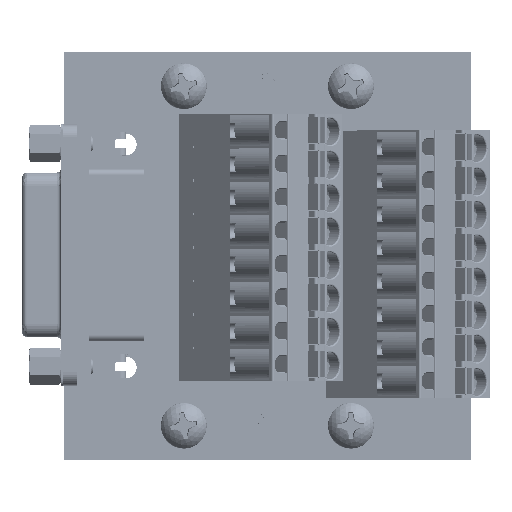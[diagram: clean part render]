
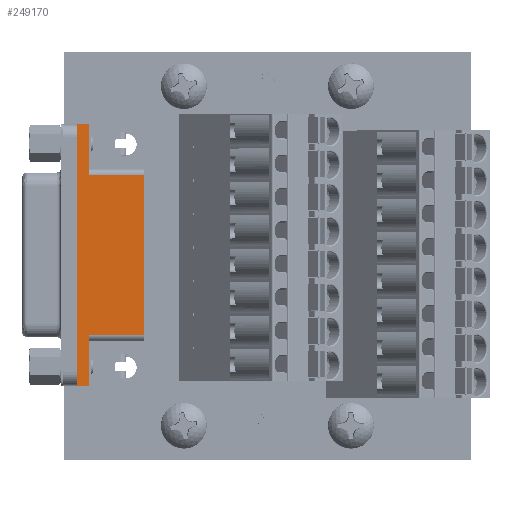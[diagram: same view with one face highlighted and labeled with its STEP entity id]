
A CAD part, top view. The second image highlights one B-rep face of the part: STEP entity #249170.
In plain terms, the highlighted planar face has unit normal (0, 0, 1) as drawn and (0, 1, 0) by its records, which use the part's own axes.
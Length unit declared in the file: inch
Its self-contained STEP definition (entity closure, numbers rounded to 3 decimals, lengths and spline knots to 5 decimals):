
#1012 = VERTEX_POINT ( 'NONE', #108923 ) ;
#3471 = EDGE_CURVE ( 'NONE', #34683, #301101, #174066, .T. ) ;
#11892 = DIRECTION ( 'NONE',  ( 0., 0., -1. ) ) ;
#14002 = EDGE_CURVE ( 'NONE', #338427, #1012, #72622, .T. ) ;
#33348 = PLANE ( 'NONE',  #36133 ) ;
#34683 = VERTEX_POINT ( 'NONE', #293613 ) ;
#36133 = AXIS2_PLACEMENT_3D ( 'NONE', #248626, #369689, #122282 ) ;
#36748 = VECTOR ( 'NONE', #165352, 39.37008 ) ;
#38092 = ORIENTED_EDGE ( 'NONE', *, *, #114585, .T. ) ;
#44380 = CARTESIAN_POINT ( 'NONE',  ( 0.77047, 0.16142, 0. ) ) ;
#52725 = DIRECTION ( 'NONE',  ( 0., 0., -1. ) ) ;
#63792 = LINE ( 'NONE', #283768, #177799 ) ;
#67737 = VERTEX_POINT ( 'NONE', #371450 ) ;
#72622 = LINE ( 'NONE', #383836, #262961 ) ;
#74480 = DIRECTION ( 'NONE',  ( 0., 0., 1. ) ) ;
#84071 = CARTESIAN_POINT ( 'NONE',  ( 0.77047, 0.16142, 0.15157 ) ) ;
#88889 = LINE ( 'NONE', #44380, #36748 ) ;
#90553 = ORIENTED_EDGE ( 'NONE', *, *, #14002, .F. ) ;
#91096 = ORIENTED_EDGE ( 'NONE', *, *, #107046, .F. ) ;
#102215 = CARTESIAN_POINT ( 'NONE',  ( 0.4689, 0.16142, 0.07874 ) ) ;
#105981 = ORIENTED_EDGE ( 'NONE', *, *, #262574, .T. ) ;
#107046 = EDGE_CURVE ( 'NONE', #34683, #67737, #317939, .T. ) ;
#108923 = CARTESIAN_POINT ( 'NONE',  ( -0.77047, 0.16142, 0.07874 ) ) ;
#114585 = EDGE_CURVE ( 'NONE', #196304, #1012, #234347, .T. ) ;
#122282 = DIRECTION ( 'NONE',  ( 0., 0., 1. ) ) ;
#126552 = CARTESIAN_POINT ( 'NONE',  ( 0.4689, 0.16142, 0.15157 ) ) ;
#134973 = EDGE_CURVE ( 'NONE', #267654, #67737, #304955, .T. ) ;
#139583 = EDGE_CURVE ( 'NONE', #301101, #238611, #63792, .T. ) ;
#149500 = EDGE_LOOP ( 'NONE', ( #257265, #304658, #38092, #90553, #105981, #234363, #91096, #365338 ) ) ;
#157747 = CARTESIAN_POINT ( 'NONE',  ( -0.4689, 0.16142, 0.15157 ) ) ;
#165352 = DIRECTION ( 'NONE',  ( 0., 0., 1. ) ) ;
#174066 = LINE ( 'NONE', #102215, #221906 ) ;
#177799 = VECTOR ( 'NONE', #316839, 39.37008 ) ;
#190380 = DIRECTION ( 'NONE',  ( 1., 0., 0. ) ) ;
#196304 = VERTEX_POINT ( 'NONE', #196519 ) ;
#196519 = CARTESIAN_POINT ( 'NONE',  ( 0.77047, 0.16142, 0.07874 ) ) ;
#203100 = CARTESIAN_POINT ( 'NONE',  ( 0., 0.16142, 0.47244 ) ) ;
#221906 = VECTOR ( 'NONE', #11892, 39.37008 ) ;
#225703 = CARTESIAN_POINT ( 'NONE',  ( 0.4689, 0.16142, 0.07874 ) ) ;
#227690 = EDGE_CURVE ( 'NONE', #196304, #238611, #88889, .T. ) ;
#234347 = LINE ( 'NONE', #225703, #239007 ) ;
#234363 = ORIENTED_EDGE ( 'NONE', *, *, #134973, .T. ) ;
#236299 = DIRECTION ( 'NONE',  ( -1., 0., 0. ) ) ;
#237128 = VECTOR ( 'NONE', #236299, 39.37008 ) ;
#238611 = VERTEX_POINT ( 'NONE', #84071 ) ;
#239007 = VECTOR ( 'NONE', #312132, 39.37008 ) ;
#248626 = CARTESIAN_POINT ( 'NONE',  ( 0.4689, 0.16142, 0.07874 ) ) ;
#249170 = ADVANCED_FACE ( 'NONE', ( #379349 ), #33348, .T. ) ;
#256556 = CARTESIAN_POINT ( 'NONE',  ( -0.4689, 0.16142, 0.07874 ) ) ;
#257251 = VECTOR ( 'NONE', #74480, 39.37008 ) ;
#257265 = ORIENTED_EDGE ( 'NONE', *, *, #139583, .T. ) ;
#262574 = EDGE_CURVE ( 'NONE', #338427, #267654, #334980, .T. ) ;
#262961 = VECTOR ( 'NONE', #52725, 39.37008 ) ;
#267654 = VERTEX_POINT ( 'NONE', #157747 ) ;
#280010 = CARTESIAN_POINT ( 'NONE',  ( -0.77047, 0.16142, 0.15157 ) ) ;
#283768 = CARTESIAN_POINT ( 'NONE',  ( 0.4689, 0.16142, 0.15157 ) ) ;
#293613 = CARTESIAN_POINT ( 'NONE',  ( 0.4689, 0.16142, 0.47244 ) ) ;
#301101 = VERTEX_POINT ( 'NONE', #322376 ) ;
#304658 = ORIENTED_EDGE ( 'NONE', *, *, #227690, .F. ) ;
#304955 = LINE ( 'NONE', #256556, #257251 ) ;
#312132 = DIRECTION ( 'NONE',  ( -1., 0., 0. ) ) ;
#316839 = DIRECTION ( 'NONE',  ( 1., 0., 0. ) ) ;
#317939 = LINE ( 'NONE', #203100, #237128 ) ;
#322376 = CARTESIAN_POINT ( 'NONE',  ( 0.4689, 0.16142, 0.15157 ) ) ;
#334980 = LINE ( 'NONE', #126552, #382744 ) ;
#338427 = VERTEX_POINT ( 'NONE', #280010 ) ;
#365338 = ORIENTED_EDGE ( 'NONE', *, *, #3471, .T. ) ;
#369689 = DIRECTION ( 'NONE',  ( 0., 1., 0. ) ) ;
#371450 = CARTESIAN_POINT ( 'NONE',  ( -0.4689, 0.16142, 0.47244 ) ) ;
#379349 = FACE_OUTER_BOUND ( 'NONE', #149500, .T. ) ;
#382744 = VECTOR ( 'NONE', #190380, 39.37008 ) ;
#383836 = CARTESIAN_POINT ( 'NONE',  ( -0.77047, 0.16142, 0. ) ) ;
